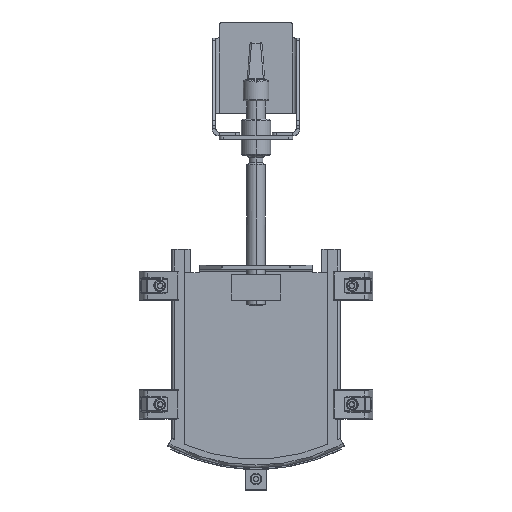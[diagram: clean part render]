
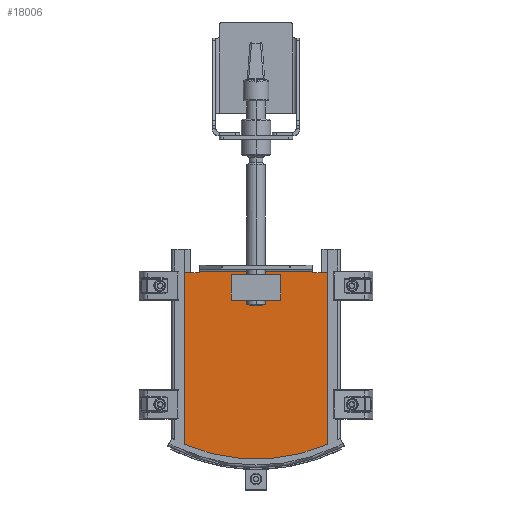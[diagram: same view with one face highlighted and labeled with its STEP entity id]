
A CAD part, top view. The second image highlights one B-rep face of the part: STEP entity #18006.
In plain terms, the highlighted planar face has unit normal (0, 0, 1).
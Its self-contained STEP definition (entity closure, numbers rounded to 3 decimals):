
#1375 = VERTEX_POINT ( 'NONE', #24254 ) ;
#1475 = CARTESIAN_POINT ( 'NONE',  ( 34., 252.5, 33. ) ) ;
#1891 = VERTEX_POINT ( 'NONE', #37233 ) ;
#1941 = CARTESIAN_POINT ( 'NONE',  ( 98., -12.001, 33. ) ) ;
#2280 = CARTESIAN_POINT ( 'NONE',  ( -79., 257., 33. ) ) ;
#3104 = ORIENTED_EDGE ( 'NONE', *, *, #10884, .T. ) ;
#3934 = CARTESIAN_POINT ( 'NONE',  ( -98., 20.454, 33. ) ) ;
#4386 = EDGE_CURVE ( 'NONE', #32049, #37562, #8688, .T. ) ;
#5895 = VERTEX_POINT ( 'NONE', #28786 ) ;
#6235 = DIRECTION ( 'NONE',  ( -1., 0., 0. ) ) ;
#6471 = VERTEX_POINT ( 'NONE', #39517 ) ;
#6552 = ORIENTED_EDGE ( 'NONE', *, *, #36542, .F. ) ;
#6573 = DIRECTION ( 'NONE',  ( 0., -1., 0. ) ) ;
#6885 = CARTESIAN_POINT ( 'NONE',  ( -77., 257., 33. ) ) ;
#7012 = EDGE_LOOP ( 'NONE', ( #33682, #39032, #29367, #18953 ) ) ;
#7298 = DIRECTION ( 'NONE',  ( 1., 0., 0. ) ) ;
#8033 = DIRECTION ( 'NONE',  ( 1., 0., 0. ) ) ;
#8175 = LINE ( 'NONE', #26991, #27986 ) ;
#8626 = VECTOR ( 'NONE', #14192, 1000. ) ;
#8688 = LINE ( 'NONE', #17274, #20495 ) ;
#8706 = VERTEX_POINT ( 'NONE', #6885 ) ;
#9183 = EDGE_CURVE ( 'NONE', #17408, #24655, #27545, .T. ) ;
#9436 = CARTESIAN_POINT ( 'NONE',  ( 98., 255., 33. ) ) ;
#9588 = ORIENTED_EDGE ( 'NONE', *, *, #25113, .T. ) ;
#10435 = CARTESIAN_POINT ( 'NONE',  ( -105., 25.856, 33. ) ) ;
#10844 = CIRCLE ( 'NONE', #22981, 2. ) ;
#10884 = EDGE_CURVE ( 'NONE', #26082, #27539, #31552, .T. ) ;
#11008 = DIRECTION ( 'NONE',  ( 0., 0., -1. ) ) ;
#11570 = DIRECTION ( 'NONE',  ( 0., -1., 0. ) ) ;
#11663 = VECTOR ( 'NONE', #27709, 1000. ) ;
#11764 = ORIENTED_EDGE ( 'NONE', *, *, #22452, .T. ) ;
#13455 = PLANE ( 'NONE',  #21811 ) ;
#13641 = DIRECTION ( 'NONE',  ( 0., 0., 1. ) ) ;
#14192 = DIRECTION ( 'NONE',  ( 0., 1., 0. ) ) ;
#15226 = EDGE_CURVE ( 'NONE', #5895, #6471, #39131, .T. ) ;
#15518 = VERTEX_POINT ( 'NONE', #19295 ) ;
#15855 = AXIS2_PLACEMENT_3D ( 'NONE', #2280, #17320, #38629 ) ;
#17274 = CARTESIAN_POINT ( 'NONE',  ( -34., 217.5, 33. ) ) ;
#17320 = DIRECTION ( 'NONE',  ( 0., 0., -1. ) ) ;
#17377 = VECTOR ( 'NONE', #7298, 1000. ) ;
#17408 = VERTEX_POINT ( 'NONE', #29776 ) ;
#17597 = ORIENTED_EDGE ( 'NONE', *, *, #29641, .T. ) ;
#18006 = ADVANCED_FACE ( 'NONE', ( #28897, #31700 ), #13455, .T. ) ;
#18585 = AXIS2_PLACEMENT_3D ( 'NONE', #19224, #31499, #25833 ) ;
#18697 = CARTESIAN_POINT ( 'NONE',  ( 98.172, 255., 33. ) ) ;
#18953 = ORIENTED_EDGE ( 'NONE', *, *, #4386, .F. ) ;
#19224 = CARTESIAN_POINT ( 'NONE',  ( 0., 245., 33. ) ) ;
#19295 = CARTESIAN_POINT ( 'NONE',  ( -34., 252.5, 33. ) ) ;
#20387 = DIRECTION ( 'NONE',  ( 1., 0., 0. ) ) ;
#20419 = CARTESIAN_POINT ( 'NONE',  ( -98.172, 255., 33. ) ) ;
#20495 = VECTOR ( 'NONE', #20868, 1000. ) ;
#20868 = DIRECTION ( 'NONE',  ( 1., 0., 0. ) ) ;
#20960 = ORIENTED_EDGE ( 'NONE', *, *, #9183, .F. ) ;
#21041 = CARTESIAN_POINT ( 'NONE',  ( 79., 255., 33. ) ) ;
#21173 = CARTESIAN_POINT ( 'NONE',  ( -34., 252.5, 33. ) ) ;
#21811 = AXIS2_PLACEMENT_3D ( 'NONE', #10435, #13641, #8033 ) ;
#21905 = CARTESIAN_POINT ( 'NONE',  ( -105., 257., 33. ) ) ;
#22452 = EDGE_CURVE ( 'NONE', #6471, #24655, #8175, .T. ) ;
#22664 = EDGE_CURVE ( 'NONE', #8706, #5895, #32506, .T. ) ;
#22981 = AXIS2_PLACEMENT_3D ( 'NONE', #32472, #11008, #20387 ) ;
#24029 = VECTOR ( 'NONE', #25731, 1000. ) ;
#24136 = CARTESIAN_POINT ( 'NONE',  ( 34., 217.5, 33. ) ) ;
#24187 = CARTESIAN_POINT ( 'NONE',  ( -34., 217.5, 33. ) ) ;
#24237 = LINE ( 'NONE', #33708, #36405 ) ;
#24254 = CARTESIAN_POINT ( 'NONE',  ( 77., 257., 33. ) ) ;
#24655 = VERTEX_POINT ( 'NONE', #3934 ) ;
#25113 = EDGE_CURVE ( 'NONE', #17408, #26082, #29444, .T. ) ;
#25377 = VECTOR ( 'NONE', #6573, 1000. ) ;
#25509 = LINE ( 'NONE', #21905, #17377 ) ;
#25731 = DIRECTION ( 'NONE',  ( 0., 1., 0. ) ) ;
#25833 = DIRECTION ( 'NONE',  ( 1., 0., 0. ) ) ;
#26082 = VERTEX_POINT ( 'NONE', #9436 ) ;
#26850 = DIRECTION ( 'NONE',  ( -1., 0., 0. ) ) ;
#26991 = CARTESIAN_POINT ( 'NONE',  ( -98., -12.001, 33. ) ) ;
#27539 = VERTEX_POINT ( 'NONE', #21041 ) ;
#27545 = CIRCLE ( 'NONE', #18585, 245. ) ;
#27709 = DIRECTION ( 'NONE',  ( -1., 0., 0. ) ) ;
#27751 = EDGE_CURVE ( 'NONE', #1891, #15518, #24237, .T. ) ;
#27986 = VECTOR ( 'NONE', #11570, 1000. ) ;
#28473 = EDGE_LOOP ( 'NONE', ( #35564, #11764, #20960, #9588, #3104, #17597, #6552, #37410 ) ) ;
#28786 = CARTESIAN_POINT ( 'NONE',  ( -79., 255., 33. ) ) ;
#28897 = FACE_OUTER_BOUND ( 'NONE', #28473, .T. ) ;
#29167 = LINE ( 'NONE', #1475, #24029 ) ;
#29367 = ORIENTED_EDGE ( 'NONE', *, *, #38518, .F. ) ;
#29444 = LINE ( 'NONE', #1941, #8626 ) ;
#29641 = EDGE_CURVE ( 'NONE', #27539, #1375, #10844, .T. ) ;
#29776 = CARTESIAN_POINT ( 'NONE',  ( 98., 20.454, 33. ) ) ;
#31499 = DIRECTION ( 'NONE',  ( 0., 0., -1. ) ) ;
#31510 = VECTOR ( 'NONE', #26850, 1000. ) ;
#31552 = LINE ( 'NONE', #18697, #11663 ) ;
#31700 = FACE_BOUND ( 'NONE', #7012, .T. ) ;
#32049 = VERTEX_POINT ( 'NONE', #24187 ) ;
#32087 = EDGE_CURVE ( 'NONE', #15518, #32049, #37072, .T. ) ;
#32472 = CARTESIAN_POINT ( 'NONE',  ( 79., 257., 33. ) ) ;
#32506 = CIRCLE ( 'NONE', #15855, 2. ) ;
#33682 = ORIENTED_EDGE ( 'NONE', *, *, #32087, .F. ) ;
#33708 = CARTESIAN_POINT ( 'NONE',  ( -34., 252.5, 33. ) ) ;
#35564 = ORIENTED_EDGE ( 'NONE', *, *, #15226, .T. ) ;
#36405 = VECTOR ( 'NONE', #6235, 1000. ) ;
#36542 = EDGE_CURVE ( 'NONE', #8706, #1375, #25509, .T. ) ;
#37072 = LINE ( 'NONE', #21173, #25377 ) ;
#37233 = CARTESIAN_POINT ( 'NONE',  ( 34., 252.5, 33. ) ) ;
#37410 = ORIENTED_EDGE ( 'NONE', *, *, #22664, .T. ) ;
#37562 = VERTEX_POINT ( 'NONE', #24136 ) ;
#38518 = EDGE_CURVE ( 'NONE', #37562, #1891, #29167, .T. ) ;
#38629 = DIRECTION ( 'NONE',  ( 1., 0., 0. ) ) ;
#39032 = ORIENTED_EDGE ( 'NONE', *, *, #27751, .F. ) ;
#39131 = LINE ( 'NONE', #20419, #31510 ) ;
#39517 = CARTESIAN_POINT ( 'NONE',  ( -98., 255., 33. ) ) ;
